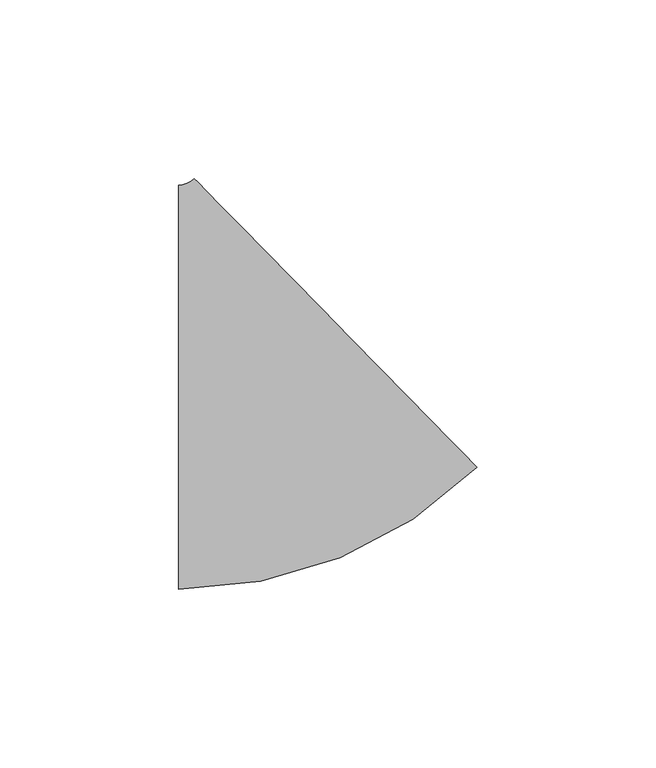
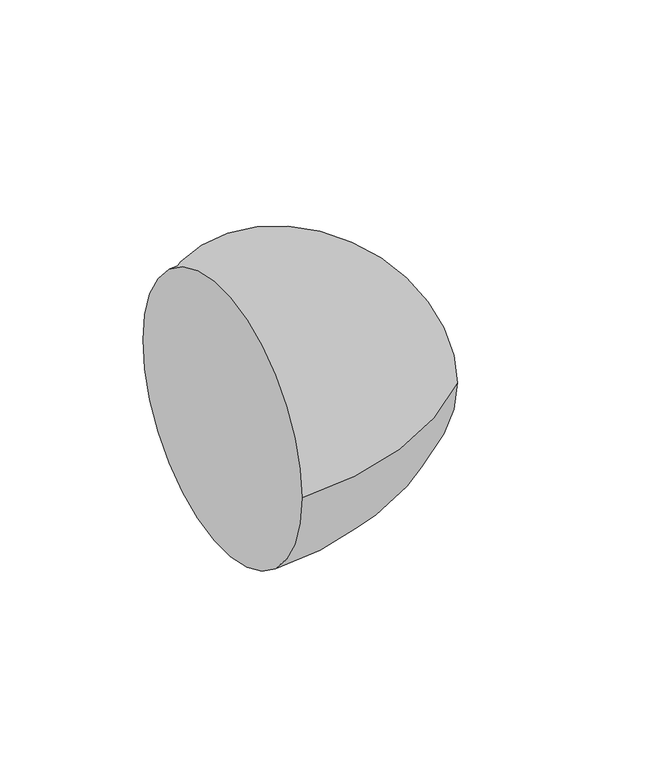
"""IFC4 building model written with IfcOpenShell, lengths in millimetres: pipe fitting geometry, M_Codo - Genérico : Estándar."""

from ifc_helpers import new_model, si_unit, point, frame, origin, place, context, project, spatial, circle_curve, ellipse_curve, trimmed, source, transform, mapped, element, save
from ifc_brep_helpers import plane_surface, revolved_surface, advanced_brep


def pipe_fitting_207c3fd1(model_context):
    return source(origin(), model_context, "Body", "AdvancedBrep", [
        advanced_brep(
        [(-25.7016579, -56.5875, 0.0), (-25.7016579, 56.5875, 0.0), (57.9659275, -22.4203396, 0.0), (-21.2566534, 58.4026974, 0.0)],
        [
            (0, 1, circle_curve(frame((-25.7016579, 0.0, 0.0), z_axis=(-1.0, 0.0, 0.0), x_axis=(0.0, 1.0, 0.0)), 56.5875)),
            (1, 0, circle_curve(frame((-25.7016579, 0.0, 0.0), z_axis=(-1.0, 0.0, 0.0), x_axis=(0.0, 1.0, 0.0)), 56.5875)),
            (2, 3, circle_curve(frame((18.354637, 17.9911789, 0.0), z_axis=(0.7141421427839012, 0.7000007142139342, 0.0), x_axis=(-0.7000007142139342, 0.7141421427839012, 0.0)), 56.5875)),
            (3, 2, circle_curve(frame((18.354637, 17.9911789, 0.0), z_axis=(0.7141421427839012, 0.7000007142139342, 0.0), x_axis=(-0.7000007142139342, 0.7141421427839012, 0.0)), 56.5875)),
            (3, 1, circle_curve(frame((-25.7016579, 62.9375, 0.0), z_axis=(0.0, 0.0, -1.0), x_axis=(0.0, -1.0, 0.0)), 6.35)),
            (0, 2, circle_curve(frame((-25.7016579, 62.9375, 0.0), z_axis=(0.0, 0.0, 1.0), x_axis=(0.0, -1.0, 0.0)), 119.525)),
        ],
        [
            plane_surface(frame((-25.7016579, 0.0, 0.0), z_axis=(-1.0, 0.0, 0.0), x_axis=(0.0, 0.0, 1.0))),
            plane_surface(frame((18.354637, 17.9911789, 0.0), z_axis=(0.7141421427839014, 0.7000007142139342, 0.0), x_axis=(0.0, 0.0, 1.0))),
            revolved_surface(trimmed(ellipse_curve(frame((-25.7016579, 0.0, 0.0), z_axis=(-1.0, 0.0, 0.0), x_axis=(0.0, 1.0, 0.0)), 56.5875, 56.5875), [point((-25.7016579, -56.5875, 0.0))], [point((-25.7016579, 56.5875, 0.0))], True, "CARTESIAN"), (-25.7016579, 62.9375, 0.0), (0.0, 0.0, 1.0)),
            revolved_surface(trimmed(ellipse_curve(frame((-25.7016579, 0.0, 0.0), z_axis=(-1.0, 0.0, 0.0), x_axis=(0.0, 1.0, 0.0)), 56.5875, 56.5875), [point((-25.7016579, 56.5875, 0.0))], [point((-25.7016579, -56.5875, 0.0))], True, "CARTESIAN"), (-25.7016579, 62.9375, 0.0), (0.0, 0.0, 1.0)),
        ],
        [
            (0, [[1, 2]]),
            (1, [[3, 4]]),
            (2, [[5, -1, 6, -4]]),
            (3, [[-6, -2, -5, -3]]),
        ],
    ),
    ])


if __name__ == "__main__":
    model = new_model("IFC4")
    model_context = context("Model", 3, world=origin())
    ifc_project = project(units=[si_unit("LENGTHUNIT", "METRE", prefix="MILLI")], contexts=[model_context])
    site = spatial("IfcSite", under=ifc_project)
    building = spatial("IfcBuilding", under=site)
    placement = place(None, origin())
    pipe_fitting_shape = pipe_fitting_207c3fd1(model_context)
    element("IfcPipeFitting", 1, ObjectType="M_Codo - Genérico : Estándar", at=placement, inside=building, context=model_context, shape_type="MappedRepresentation", body=[
        mapped(pipe_fitting_shape, transform((0.0, 0.0, 0.0), x_axis=(1.0, 0.0, 0.0), y_axis=(0.0, 1.0, 0.0), z_axis=(0.0, 0.0, 1.0))),
    ])
    save(model, "model.ifc")
